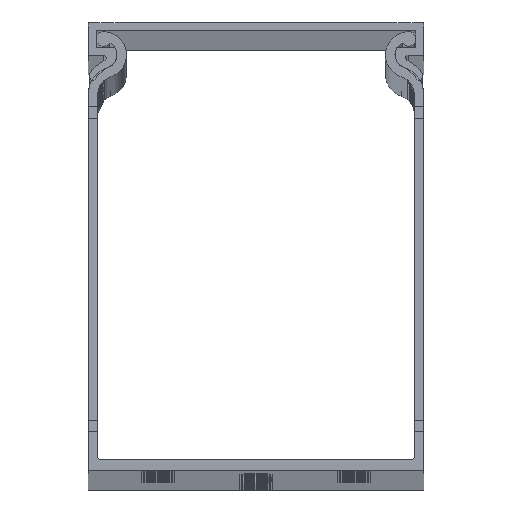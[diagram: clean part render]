
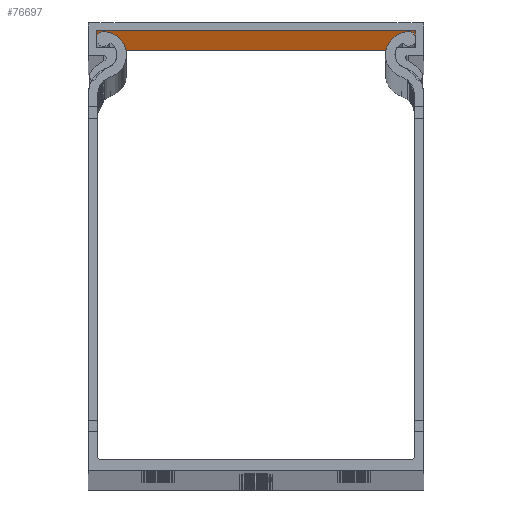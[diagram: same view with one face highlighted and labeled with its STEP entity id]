
A CAD part, top view. The second image highlights one B-rep face of the part: STEP entity #76697.
In plain terms, the highlighted planar face has unit normal (0, -1, 0).
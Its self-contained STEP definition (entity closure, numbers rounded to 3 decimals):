
#633 = EDGE_CURVE ( 'NONE', #54488, #96093, #9888, .T. ) ;
#6353 = VECTOR ( 'NONE', #20908, 1000. ) ;
#7032 = DIRECTION ( 'NONE',  ( 1., 0., 0. ) ) ;
#9888 = LINE ( 'NONE', #51775, #78124 ) ;
#16281 = EDGE_CURVE ( 'NONE', #100712, #54488, #60008, .T. ) ;
#20908 = DIRECTION ( 'NONE',  ( 0., 0., -1. ) ) ;
#31795 = VECTOR ( 'NONE', #52697, 1000. ) ;
#31915 = EDGE_CURVE ( 'NONE', #100712, #105176, #78049, .T. ) ;
#35956 = FACE_OUTER_BOUND ( 'NONE', #78086, .T. ) ;
#47577 = CARTESIAN_POINT ( 'NONE',  ( 2596.807, 1295.656, 2000. ) ) ;
#48550 = DIRECTION ( 'NONE',  ( 0., 1., 0. ) ) ;
#49086 = CARTESIAN_POINT ( 'NONE',  ( 2568.407, 1295.656, 2000. ) ) ;
#49440 = DIRECTION ( 'NONE',  ( 1., 0., 0. ) ) ;
#51341 = VECTOR ( 'NONE', #49440, 1000. ) ;
#51775 = CARTESIAN_POINT ( 'NONE',  ( 2568.407, 1295.656, 0. ) ) ;
#52697 = DIRECTION ( 'NONE',  ( 0., 0., -1. ) ) ;
#54488 = VERTEX_POINT ( 'NONE', #59140 ) ;
#55474 = ORIENTED_EDGE ( 'NONE', *, *, #31915, .F. ) ;
#59140 = CARTESIAN_POINT ( 'NONE',  ( 2540.007, 1295.656, 0. ) ) ;
#60008 = LINE ( 'NONE', #104346, #31795 ) ;
#60077 = ORIENTED_EDGE ( 'NONE', *, *, #633, .T. ) ;
#62714 = LINE ( 'NONE', #47577, #6353 ) ;
#63316 = AXIS2_PLACEMENT_3D ( 'NONE', #91977, #48550, #108461 ) ;
#75882 = ORIENTED_EDGE ( 'NONE', *, *, #108931, .F. ) ;
#76697 = ADVANCED_FACE ( 'NONE', ( #35956 ), #109937, .F. ) ;
#78049 = LINE ( 'NONE', #49086, #51341 ) ;
#78086 = EDGE_LOOP ( 'NONE', ( #60077, #75882, #55474, #80839 ) ) ;
#78124 = VECTOR ( 'NONE', #7032, 1000. ) ;
#80839 = ORIENTED_EDGE ( 'NONE', *, *, #16281, .T. ) ;
#89658 = CARTESIAN_POINT ( 'NONE',  ( 2596.807, 1295.656, 2000. ) ) ;
#91977 = CARTESIAN_POINT ( 'NONE',  ( 2568.407, 1295.656, 2000. ) ) ;
#96093 = VERTEX_POINT ( 'NONE', #96605 ) ;
#96605 = CARTESIAN_POINT ( 'NONE',  ( 2596.807, 1295.656, 0. ) ) ;
#96626 = CARTESIAN_POINT ( 'NONE',  ( 2540.007, 1295.656, 2000. ) ) ;
#100712 = VERTEX_POINT ( 'NONE', #96626 ) ;
#104346 = CARTESIAN_POINT ( 'NONE',  ( 2540.007, 1295.656, 2000. ) ) ;
#105176 = VERTEX_POINT ( 'NONE', #89658 ) ;
#108461 = DIRECTION ( 'NONE',  ( 0., 0., 1. ) ) ;
#108931 = EDGE_CURVE ( 'NONE', #105176, #96093, #62714, .T. ) ;
#109937 = PLANE ( 'NONE',  #63316 ) ;
